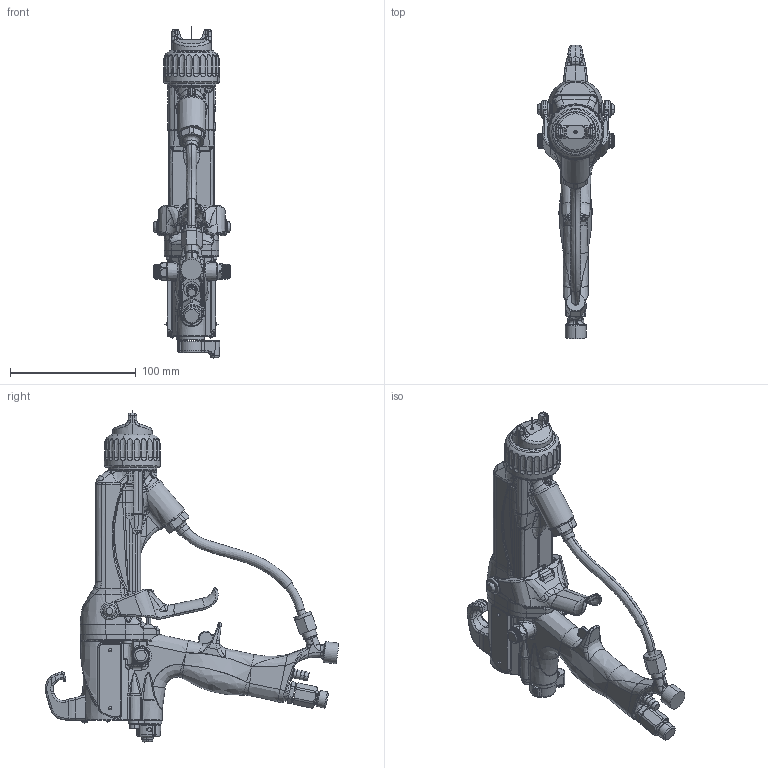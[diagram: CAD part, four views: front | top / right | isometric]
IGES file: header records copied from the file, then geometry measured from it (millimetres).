
Start section:  PTC IGES file: l85t90-en-c.igs
Global section: file name: l85t90-en-c.igs; native system: Creo Parametric by PTC Inc.; preprocessor: 2019030; author: qusrh3; organization: Unknown; date: 20200518.163733; units: inch
Bounding box: 61.15 x 233.22 x 263.65 mm (x, y, z)
Surface area: 91878.8 mm2 (no closed solid volume)
Topology: 0 solids, 0 shells, 2410 faces, 12024 edges, 12015 vertices
Faces by surface type: bspline 1334, revolution 1068, extrusion 8
